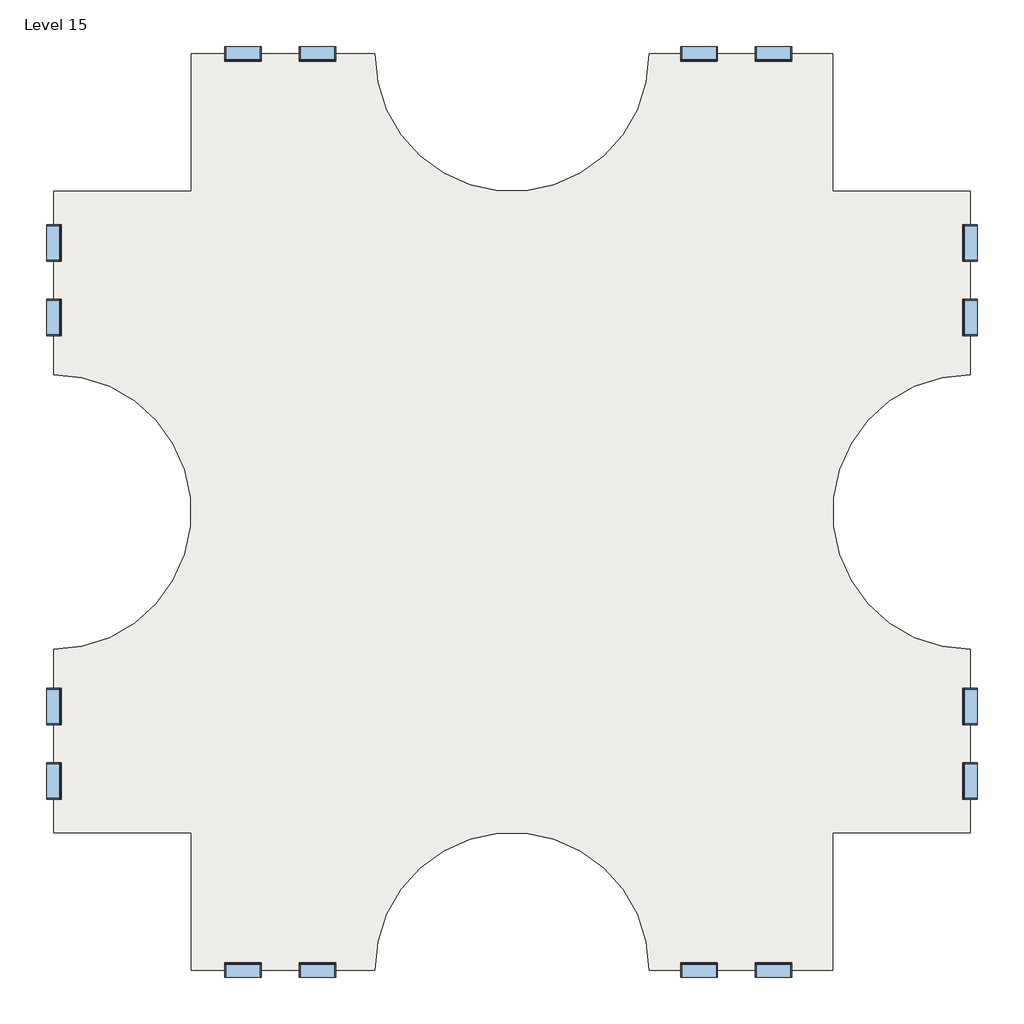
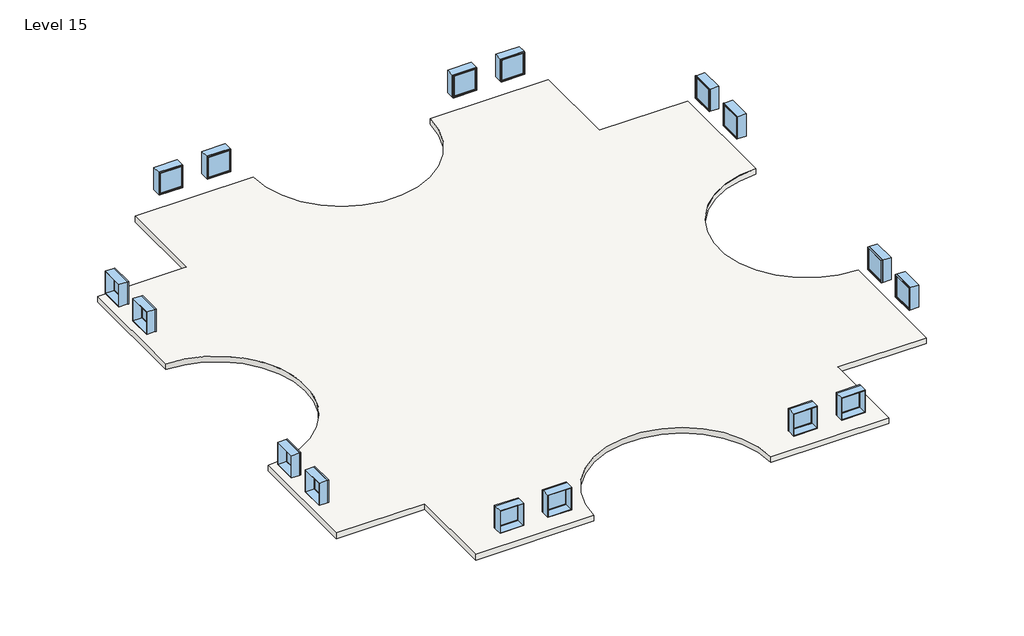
# One storey: 16 windows, 2 slabs.
"""IFC4 building model written with IfcOpenShell, lengths in millimetres."""

import ifcopenshell
import ifcopenshell.guid

model = None  # the IFC model being written
_history = None  # IfcOwnerHistory: only IFC2X3 demands one
_inside = {}  # id of a spatial element -> (the spatial element, [elements in it])
_under = {}  # id of a project, library or spatial element -> (it, [spatial elements below it])
_declared = {}  # id of a project -> (the project, [libraries it declares])
_typed = {}  # id of a type object -> (the type object, [elements of that type])
_made_of = {}  # id of a material, layer set ... -> (it, [elements and type objects made of it])


def new_model(schema):
    """Start an empty IFC model of exactly this schema.

    Asked for "IFC4X3", IfcOpenShell would pick the latest addendum, in which some entities
    have other attributes; the version numbers below select the first issue.
    IFC2X3 requires an IfcOwnerHistory on every rooted entity: one is made here for all.
    """
    global model, _history
    if schema == "IFC4X3":
        model = ifcopenshell.file(schema_version=(4, 3, 0, 0))
    else:
        model = ifcopenshell.file(schema=schema)
    _inside.clear()
    _under.clear()
    _declared.clear()
    _typed.clear()
    _made_of.clear()
    _history = None
    if model.schema == "IFC2X3":
        org = make("IfcOrganization", Name="unknown")
        user = make(
            "IfcPersonAndOrganization",
            ThePerson=make("IfcPerson", FamilyName="unknown"),
            TheOrganization=org,
        )
        app = make(
            "IfcApplication",
            ApplicationDeveloper=org,
            Version="unknown",
            ApplicationFullName="unknown",
            ApplicationIdentifier="unknown",
        )
        _history = make(
            "IfcOwnerHistory",
            OwningUser=user,
            OwningApplication=app,
            ChangeAction="ADDED",
            CreationDate=0,
        )
    return model


def make(cls, **values):
    """One entity of the class cls with the attributes given. An attribute that is None is left unset."""
    return model.create_entity(
        cls, **{name: value for name, value in values.items() if value is not None}
    )


def rooted(cls, **values):
    """An entity with a GlobalId (a new one), such as an element, a storey or a relation."""
    return make(cls, GlobalId=ifcopenshell.guid.new(), OwnerHistory=_history, **values)


def si_unit(unit_type, name, prefix=None):
    """IfcSIUnit, for example si_unit("LENGTHUNIT", "METRE", prefix="MILLI")."""
    return make("IfcSIUnit", UnitType=unit_type, Prefix=prefix, Name=name)


def assignment(units):
    """IfcUnitAssignment: the units of a project."""
    return None if units is None else make("IfcUnitAssignment", Units=units)


def point(xyz):
    """IfcCartesianPoint."""
    return None if xyz is None else make("IfcCartesianPoint", Coordinates=xyz)


def direction(xyz):
    """IfcDirection."""
    return None if xyz is None else make("IfcDirection", DirectionRatios=xyz)


def frame(location, z_axis=None, x_axis=None):
    """IfcAxis2Placement3D, a coordinate frame: its origin and axes. An axis left out is left unset."""
    return make(
        "IfcAxis2Placement3D",
        Location=point(location),
        Axis=direction(z_axis),
        RefDirection=direction(x_axis),
    )


def frame_2d(location, x_axis=None):
    """IfcAxis2Placement2D, a coordinate frame in the plane: its origin and x axis."""
    return make(
        "IfcAxis2Placement2D", Location=point(location), RefDirection=direction(x_axis)
    )


def origin():
    """The frame at (0, 0, 0) with its axes left unset."""
    return frame((0.0, 0.0, 0.0))


def place(relative_to, where):
    """IfcLocalPlacement: puts the frame where relative to a parent placement (None: the world)."""
    return make(
        "IfcLocalPlacement", PlacementRelTo=relative_to, RelativePlacement=where
    )


def context(
    kind, dimensions, precision=None, world=None, true_north=None, identifier=None
):
    """IfcGeometricRepresentationContext, for example the 3D "Model" context."""
    return make(
        "IfcGeometricRepresentationContext",
        ContextIdentifier=identifier,
        ContextType=kind,
        CoordinateSpaceDimension=dimensions,
        Precision=precision,
        WorldCoordinateSystem=world,
        TrueNorth=true_north,
    )


def project(units=None, contexts=None):
    """IfcProject with its units and contexts."""
    return rooted(
        "IfcProject",
        Name="project",
        RepresentationContexts=contexts,
        UnitsInContext=assignment(units),
    )


def spatial(cls, under=None, at=None, **own):
    """A site, building, storey or space (cls), placed at a placement, below another one or the project."""
    s = rooted(cls, ObjectPlacement=at, **own)
    if under is not None:
        _under.setdefault(under.id(), (under, []))[1].append(s)
    return s


def polyline(points):
    """IfcPolyline through the points."""
    return make("IfcPolyline", Points=[point(p) for p in points])


def circle_curve(where, radius):
    """IfcCircle in the frame where."""
    return make("IfcCircle", Position=where, Radius=radius)


def trimmed(basis, trim1, trim2, sense, master):
    """IfcTrimmedCurve: the piece of a basis curve between two trims."""
    return make(
        "IfcTrimmedCurve",
        BasisCurve=basis,
        Trim1=trim1,
        Trim2=trim2,
        SenseAgreement=sense,
        MasterRepresentation=master,
    )


def segment(curve, same_sense, transition):
    """IfcCompositeCurveSegment."""
    return make(
        "IfcCompositeCurveSegment",
        Transition=transition,
        SameSense=same_sense,
        ParentCurve=curve,
    )


def composite_curve(segments, self_intersect=None):
    """IfcCompositeCurve: segments joined end to end."""
    return make("IfcCompositeCurve", Segments=segments, SelfIntersect=self_intersect)


def outline(outer, holes=None, kind="AREA"):
    """IfcArbitraryClosedProfileDef: a profile drawn as a closed curve; with holes, ...WithVoids."""
    if holes is None:
        return make("IfcArbitraryClosedProfileDef", ProfileType=kind, OuterCurve=outer)
    return make(
        "IfcArbitraryProfileDefWithVoids",
        ProfileType=kind,
        OuterCurve=outer,
        InnerCurves=holes,
    )


def extrude(swept, where, along, depth):
    """IfcExtrudedAreaSolid: the profile swept, set in the frame where, extruded along a direction by depth."""
    return make(
        "IfcExtrudedAreaSolid",
        SweptArea=swept,
        Position=where,
        ExtrudedDirection=direction(along),
        Depth=depth,
    )


def shape(context_of_items, identifier, shape_type, items):
    """IfcShapeRepresentation: the items that make up one representation, for example the "Body"."""
    return make(
        "IfcShapeRepresentation",
        ContextOfItems=context_of_items,
        RepresentationIdentifier=identifier,
        RepresentationType=shape_type,
        Items=items,
    )


def source(mapping_origin, context_of_items, identifier, shape_type, items):
    """IfcRepresentationMap: a shape defined once, which mapped items show again and again."""
    return make(
        "IfcRepresentationMap",
        MappingOrigin=mapping_origin,
        MappedRepresentation=shape(context_of_items, identifier, shape_type, items),
    )


def transform(
    local_origin,
    x_axis=None,
    y_axis=None,
    z_axis=None,
    scale=None,
    scale2=None,
    scale3=None,
    uniform=True,
):
    """IfcCartesianTransformationOperator3D, or its non-uniform kind. x_axis, y_axis, z_axis: its Axis1, 2, 3."""
    if uniform:
        return make(
            "IfcCartesianTransformationOperator3D",
            Axis1=direction(x_axis),
            Axis2=direction(y_axis),
            LocalOrigin=point(local_origin),
            Scale=scale,
            Axis3=direction(z_axis),
        )
    return make(
        "IfcCartesianTransformationOperator3DnonUniform",
        Axis1=direction(x_axis),
        Axis2=direction(y_axis),
        LocalOrigin=point(local_origin),
        Scale=scale,
        Axis3=direction(z_axis),
        Scale2=scale2,
        Scale3=scale3,
    )


def mapped(mapping_source, mapping_target):
    """IfcMappedItem: shows the shape of a source again, moved by a transform."""
    return make(
        "IfcMappedItem", MappingSource=mapping_source, MappingTarget=mapping_target
    )


def made_of(thing, what):
    """Note that an element or type object is made of a material, layer set ...; save() writes the relation."""
    if what is not None:
        _made_of.setdefault(what.id(), (what, []))[1].append(thing)
    return thing


def element(
    cls,
    number,
    at=None,
    inside=None,
    cuts=None,
    type_object=None,
    material=None,
    context=None,
    identifier="Body",
    shape_type=None,
    held_by="IfcProductDefinitionShape",
    body=None,
    shapes=None,
    **own,
):
    """One element of the class cls, such as IfcWall. Its Tag is "e" and its number.

    at: its placement. inside: the storey or other place that contains it. cuts: it is an
    opening in that element (IfcRelVoidsElement). A single representation is given by context,
    identifier, shape_type and body (its items); several are given by shapes. held_by: the class
    of the entity that holds the representations. save() writes the other relations.
    """
    e = rooted(cls, Tag="e%d" % number, ObjectPlacement=at, **own)
    if body is not None:
        shapes = [shape(context, identifier, shape_type, body)]
    if shapes is not None:
        e.Representation = make(held_by, Representations=shapes)
    if inside is not None:
        _inside.setdefault(inside.id(), (inside, []))[1].append(e)
    if cuts is not None:
        rooted(
            "IfcRelVoidsElement", RelatingBuildingElement=cuts, RelatedOpeningElement=e
        )
    if type_object is not None:
        _typed.setdefault(type_object.id(), (type_object, []))[1].append(e)
    return made_of(e, material)


def aggregate(whole, parts):
    """IfcRelAggregates: a whole, such as a stair, and the parts it consists of."""
    return rooted("IfcRelAggregates", RelatingObject=whole, RelatedObjects=parts)


def save(model, path):
    """Write the relations noted so far, then the file.

    IfcRelAggregates (storeys below a building ...), IfcRelContainedInSpatialStructure (elements
    in a storey), IfcRelDefinesByType, IfcRelAssociatesMaterial and IfcRelDeclares: one each for
    every whole, place, type object, material and project.
    """
    for whole, parts in _under.values():
        aggregate(whole, parts)
    for where, things in _inside.values():
        rooted(
            "IfcRelContainedInSpatialStructure",
            RelatedElements=things,
            RelatingStructure=where,
        )
    for kind, things in _typed.values():
        rooted("IfcRelDefinesByType", RelatedObjects=things, RelatingType=kind)
    for what, things in _made_of.values():
        rooted("IfcRelAssociatesMaterial", RelatedObjects=things, RelatingMaterial=what)
    for by, libraries in _declared.values():
        rooted("IfcRelDeclares", RelatingContext=by, RelatedDefinitions=libraries)
    model.write(path)


def window_d0035ecf(model_context):
    return source(origin(), model_context, "Body", "SweptSolid", [
        extrude(outline(polyline([(508.0, 200.025), (-584.2, 200.025), (-584.2, 212.725), (508.0, 212.725), (508.0, 200.025)])), frame((0.0, 0.0, 977.9), z_axis=(0.0, 0.0, 1.0), x_axis=(1.0, 0.0, 0.0)), (0.0, 0.0, 1.0), 1092.2),
        extrude(outline(polyline([(2114.55, -628.65), (933.45, -628.65), (933.45, 552.45), (2114.55, 552.45), (2114.55, -628.65)]), holes=[polyline([(2070.1, -584.2), (2070.1, 508.0), (977.9, 508.0), (977.9, -584.2), (2070.1, -584.2)])]), frame((0.0, 184.15, 0.0), z_axis=(0.0, 1.0, 0.0), x_axis=(0.0, 0.0, 1.0)), (0.0, 0.0, 1.0), 44.45),
        extrude(outline(polyline([(2133.6, -647.7), (914.4, -647.7), (914.4, 571.5), (2133.6, 571.5), (2133.6, -647.7)]), holes=[polyline([(2101.85, -615.95), (2101.85, 539.75), (946.15, 539.75), (946.15, -615.95), (2101.85, -615.95)])]), frame((0.0, -247.65, 0.0), z_axis=(0.0, 1.0, 0.0), x_axis=(0.0, 0.0, 1.0)), (0.0, 0.0, 1.0), 431.8),
        extrude(outline(polyline([(2133.6, 571.5), (2133.6, -647.7), (914.4, -647.7), (914.4, 571.5), (2133.6, 571.5)]), holes=[polyline([(2114.55, 552.45), (933.45, 552.45), (933.45, -628.65), (2114.55, -628.65), (2114.55, 552.45)])]), frame((0.0, 184.15, 0.0), z_axis=(0.0, 1.0, 0.0), x_axis=(0.0, 0.0, 1.0)), (0.0, 0.0, 1.0), 63.5),
    ])


def window_d434eb62(model_context):
    return source(origin(), model_context, "Body", "SweptSolid", [
        extrude(outline(polyline([(508.0, -200.025), (508.0, -212.725), (-584.2, -212.725), (-584.2, -200.025), (508.0, -200.025)])), frame((0.0, 0.0, 977.9), z_axis=(0.0, 0.0, 1.0), x_axis=(1.0, 0.0, 0.0)), (0.0, 0.0, 1.0), 1092.2),
        extrude(outline(polyline([(2114.55, -628.65), (933.45, -628.65), (933.45, 552.45), (2114.55, 552.45), (2114.55, -628.65)]), holes=[polyline([(2070.1, -584.2), (2070.1, 508.0), (977.9, 508.0), (977.9, -584.2), (2070.1, -584.2)])]), frame((0.0, -228.6, 0.0), z_axis=(0.0, 1.0, 0.0), x_axis=(0.0, 0.0, 1.0)), (0.0, 0.0, 1.0), 44.45),
        extrude(outline(polyline([(2133.6, -647.7), (914.4, -647.7), (914.4, 571.5), (2133.6, 571.5), (2133.6, -647.7)]), holes=[polyline([(2101.85, -615.95), (2101.85, 539.75), (946.15, 539.75), (946.15, -615.95), (2101.85, -615.95)])]), frame((0.0, -184.15, 0.0), z_axis=(0.0, 1.0, 0.0), x_axis=(0.0, 0.0, 1.0)), (0.0, 0.0, 1.0), 431.8),
        extrude(outline(polyline([(2133.6, 571.5), (2133.6, -647.7), (914.4, -647.7), (914.4, 571.5), (2133.6, 571.5)]), holes=[polyline([(2114.55, 552.45), (933.45, 552.45), (933.45, -628.65), (2114.55, -628.65), (2114.55, 552.45)])]), frame((0.0, -247.65, 0.0), z_axis=(0.0, 1.0, 0.0), x_axis=(0.0, 0.0, 1.0)), (0.0, 0.0, 1.0), 63.5),
    ])


model = new_model("IFC4")

# Units and contexts
model_context = context("Model", 3, world=origin())
ifc_project = project(units=[si_unit("LENGTHUNIT", "METRE", prefix="MILLI")], contexts=[model_context])

# Site, building, storey
site = spatial("IfcSite", under=ifc_project)
building = spatial("IfcBuilding", under=site)
storey = spatial("IfcBuildingStorey", under=building, Name="Level 15", Elevation=42672.0)

# Slabs
placement = place(None, origin())
element("IfcSlab", 1, ObjectType="Generic - 12\"", at=placement, inside=storey, context=model_context, shape_type="SweptSolid", body=[
    extrude(outline(composite_curve([segment(polyline([(-7150.3629456, 4479.6634547), (-7150.3629456, 9051.6634547), (-1054.3629456, 9051.6634547)]), True, "CONTINUOUS"), segment(trimmed(circle_curve(frame_2d((3517.6370544, 9051.6634547)), 4572.0), [point((-1054.3629456, 9051.6634547))], [point((8089.6370544, 9051.6634547))], True, "CARTESIAN"), True, "CONTINUOUS"), segment(polyline([(8089.6370544, 9051.6634547), (14185.6370544, 9051.6634547), (14185.6370544, 4479.6634547), (18757.6370544, 4479.6634547), (18757.6370544, -1616.3365453)]), True, "CONTINUOUS"), segment(trimmed(circle_curve(frame_2d((18757.6370544, -6188.3365453)), 4572.0), [point((18757.6370544, -1616.3365453))], [point((18757.6370544, -10760.3365453))], True, "CARTESIAN"), True, "CONTINUOUS"), segment(polyline([(18757.6370544, -10760.3365453), (18757.6370544, -16856.3365453), (14185.6370544, -16856.3365453), (14185.6370544, -21428.3365453), (8089.6370544, -21428.3365453)]), True, "CONTINUOUS"), segment(trimmed(circle_curve(frame_2d((3517.6370544, -21428.3365453)), 4572.0), [point((8089.6370544, -21428.3365453))], [point((-1054.3629456, -21428.3365453))], True, "CARTESIAN"), True, "CONTINUOUS"), segment(polyline([(-1054.3629456, -21428.3365453), (-7150.3629456, -21428.3365453), (-7150.3629456, -16856.3365453), (-11722.3629456, -16856.3365453), (-11722.3629456, -10760.3365453)]), True, "CONTINUOUS"), segment(trimmed(circle_curve(frame_2d((-11722.3629456, -6188.3365453)), 4572.0), [point((-11722.3629456, -10760.3365453))], [point((-11722.3629456, -1616.3365453))], True, "CARTESIAN"), True, "CONTINUOUS"), segment(polyline([(-11722.3629456, -1616.3365453), (-11722.3629456, 4479.6634547), (-7150.3629456, 4479.6634547)]), True, "CONTINUOUS")], self_intersect=False)), frame((0.0, 0.0, 42367.2), z_axis=(0.0, 0.0, 1.0), x_axis=(1.0, 0.0, 0.0)), (0.0, 0.0, 1.0), 304.8),
])
element("IfcSlab", 2, ObjectType="Generic - 12\"", at=placement, inside=storey, context=model_context, shape_type="SweptSolid", body=[
    extrude(outline(composite_curve([segment(polyline([(-7150.3629456, 4479.6634547), (-7150.3629456, 9051.6634547), (-1054.3629456, 9051.6634547)]), True, "CONTINUOUS"), segment(trimmed(circle_curve(frame_2d((3517.6370544, 9051.6634547)), 4572.0), [point((-1054.3629456, 9051.6634547))], [point((8089.6370544, 9051.6634547))], True, "CARTESIAN"), True, "CONTINUOUS"), segment(polyline([(8089.6370544, 9051.6634547), (14185.6370544, 9051.6634547), (14185.6370544, 4479.6634547), (18757.6370544, 4479.6634547), (18757.6370544, -1616.3365453)]), True, "CONTINUOUS"), segment(trimmed(circle_curve(frame_2d((18757.6370544, -6188.3365453)), 4572.0), [point((18757.6370544, -1616.3365453))], [point((18757.6370544, -10760.3365453))], True, "CARTESIAN"), True, "CONTINUOUS"), segment(polyline([(18757.6370544, -10760.3365453), (18757.6370544, -16856.3365453), (14185.6370544, -16856.3365453), (14185.6370544, -21428.3365453), (8089.6370544, -21428.3365453)]), True, "CONTINUOUS"), segment(trimmed(circle_curve(frame_2d((3517.6370544, -21428.3365453)), 4572.0), [point((8089.6370544, -21428.3365453))], [point((-1054.3629456, -21428.3365453))], True, "CARTESIAN"), True, "CONTINUOUS"), segment(polyline([(-1054.3629456, -21428.3365453), (-7150.3629456, -21428.3365453), (-7150.3629456, -16856.3365453), (-11722.3629456, -16856.3365453), (-11722.3629456, -10760.3365453)]), True, "CONTINUOUS"), segment(trimmed(circle_curve(frame_2d((-11722.3629456, -6188.3365453)), 4572.0), [point((-11722.3629456, -10760.3365453))], [point((-11722.3629456, -1616.3365453))], True, "CARTESIAN"), True, "CONTINUOUS"), segment(polyline([(-11722.3629456, -1616.3365453), (-11722.3629456, 4479.6634547), (-7150.3629456, 4479.6634547)]), True, "CONTINUOUS")], self_intersect=False)), frame((0.0, 0.0, 42367.2), z_axis=(0.0, 0.0, 1.0), x_axis=(1.0, 0.0, 0.0)), (0.0, 0.0, 1.0), 304.8),
])

# Windows
window_shape = window_d0035ecf(model_context)
element("IfcWindow", 3, ObjectType="Fixed : 48\" x 48\"", at=placement, inside=storey, context=model_context, shape_type="MappedRepresentation", body=[
    mapped(window_shape, transform((-11719.1879456, 247.3884547, 42672.0), x_axis=(0.0, -1.0, 0.0), y_axis=(1.0, 0.0, 0.0), z_axis=(0.0, 0.0, 1.0))),
])
element("IfcWindow", 4, ObjectType="Fixed : 48\" x 48\"", at=placement, inside=storey, context=model_context, shape_type="MappedRepresentation", body=[
    mapped(window_shape, transform((-5469.1993281, 9048.4884547, 42672.0), x_axis=(-1.0, 0.0, 0.0), y_axis=(0.0, -1.0, 0.0), z_axis=(0.0, 0.0, 1.0))),
])
element("IfcWindow", 5, ObjectType="Fixed : 48\" x 48\"", at=placement, inside=storey, context=model_context, shape_type="MappedRepresentation", body=[
    mapped(window_shape, transform((-11719.1879456, -15175.1729277, 42672.0), x_axis=(0.0, -1.0, 0.0), y_axis=(1.0, 0.0, 0.0), z_axis=(0.0, 0.0, 1.0))),
])
element("IfcWindow", 6, ObjectType="Fixed : 48\" x 48\"", at=placement, inside=storey, context=model_context, shape_type="MappedRepresentation", body=[
    mapped(window_shape, transform((-2918.0879456, -21425.1615453, 42672.0), x_axis=(1.0, 0.0, 0.0), y_axis=(0.0, 1.0, 0.0), z_axis=(0.0, 0.0, 1.0))),
])
element("IfcWindow", 7, ObjectType="Fixed : 48\" x 48\"", at=placement, inside=storey, context=model_context, shape_type="MappedRepresentation", body=[
    mapped(window_shape, transform((18754.4620544, 2798.4998372, 42672.0), x_axis=(0.0, 1.0, 0.0), y_axis=(-1.0, 0.0, 0.0), z_axis=(0.0, 0.0, 1.0))),
])
element("IfcWindow", 8, ObjectType="Fixed : 48\" x 48\"", at=placement, inside=storey, context=model_context, shape_type="MappedRepresentation", body=[
    mapped(window_shape, transform((9705.7120544, 9048.4884547, 42672.0), x_axis=(-1.0, 0.0, 0.0), y_axis=(0.0, -1.0, 0.0), z_axis=(0.0, 0.0, 1.0))),
])
element("IfcWindow", 9, ObjectType="Fixed : 48\" x 48\"", at=placement, inside=storey, context=model_context, shape_type="MappedRepresentation", body=[
    mapped(window_shape, transform((18754.4620544, -12624.0615453, 42672.0), x_axis=(0.0, 1.0, 0.0), y_axis=(-1.0, 0.0, 0.0), z_axis=(0.0, 0.0, 1.0))),
])
element("IfcWindow", 10, ObjectType="Fixed : 48\" x 48\"", at=placement, inside=storey, context=model_context, shape_type="MappedRepresentation", body=[
    mapped(window_shape, transform((12256.8234368, -21425.1615453, 42672.0), x_axis=(1.0, 0.0, 0.0), y_axis=(0.0, 1.0, 0.0), z_axis=(0.0, 0.0, 1.0))),
])
window_2_shape = window_d434eb62(model_context)
element("IfcWindow", 11, ObjectType="Fixed : 48\" x 48\"", at=placement, inside=storey, context=model_context, shape_type="MappedRepresentation", body=[
    mapped(window_2_shape, transform((-11719.1879456, 2798.4998372, 42672.0), x_axis=(0.0, 1.0, 0.0), y_axis=(-1.0, 0.0, 0.0), z_axis=(0.0, 0.0, 1.0))),
])
element("IfcWindow", 12, ObjectType="Fixed : 48\" x 48\"", at=placement, inside=storey, context=model_context, shape_type="MappedRepresentation", body=[
    mapped(window_2_shape, transform((-2918.0879456, 9048.4884547, 42672.0), x_axis=(1.0, 0.0, 0.0), y_axis=(0.0, 1.0, 0.0), z_axis=(0.0, 0.0, 1.0))),
])
element("IfcWindow", 13, ObjectType="Fixed : 48\" x 48\"", at=placement, inside=storey, context=model_context, shape_type="MappedRepresentation", body=[
    mapped(window_2_shape, transform((-11719.1879456, -12624.0615453, 42672.0), x_axis=(0.0, 1.0, 0.0), y_axis=(-1.0, 0.0, 0.0), z_axis=(0.0, 0.0, 1.0))),
])
element("IfcWindow", 14, ObjectType="Fixed : 48\" x 48\"", at=placement, inside=storey, context=model_context, shape_type="MappedRepresentation", body=[
    mapped(window_2_shape, transform((-5469.1993281, -21425.1615453, 42672.0), x_axis=(-1.0, 0.0, 0.0), y_axis=(0.0, -1.0, 0.0), z_axis=(0.0, 0.0, 1.0))),
])
element("IfcWindow", 15, ObjectType="Fixed : 48\" x 48\"", at=placement, inside=storey, context=model_context, shape_type="MappedRepresentation", body=[
    mapped(window_2_shape, transform((18754.4620544, 247.3884547, 42672.0), x_axis=(0.0, -1.0, 0.0), y_axis=(1.0, 0.0, 0.0), z_axis=(0.0, 0.0, 1.0))),
])
element("IfcWindow", 16, ObjectType="Fixed : 48\" x 48\"", at=placement, inside=storey, context=model_context, shape_type="MappedRepresentation", body=[
    mapped(window_2_shape, transform((12256.8234368, 9048.4884547, 42672.0), x_axis=(1.0, 0.0, 0.0), y_axis=(0.0, 1.0, 0.0), z_axis=(0.0, 0.0, 1.0))),
])
element("IfcWindow", 17, ObjectType="Fixed : 48\" x 48\"", at=placement, inside=storey, context=model_context, shape_type="MappedRepresentation", body=[
    mapped(window_2_shape, transform((18754.4620544, -15175.1729277, 42672.0), x_axis=(0.0, -1.0, 0.0), y_axis=(1.0, 0.0, 0.0), z_axis=(0.0, 0.0, 1.0))),
])
element("IfcWindow", 18, ObjectType="Fixed : 48\" x 48\"", at=placement, inside=storey, context=model_context, shape_type="MappedRepresentation", body=[
    mapped(window_2_shape, transform((9705.7120544, -21425.1615453, 42672.0), x_axis=(-1.0, 0.0, 0.0), y_axis=(0.0, -1.0, 0.0), z_axis=(0.0, 0.0, 1.0))),
])

save(model, "model.ifc")
